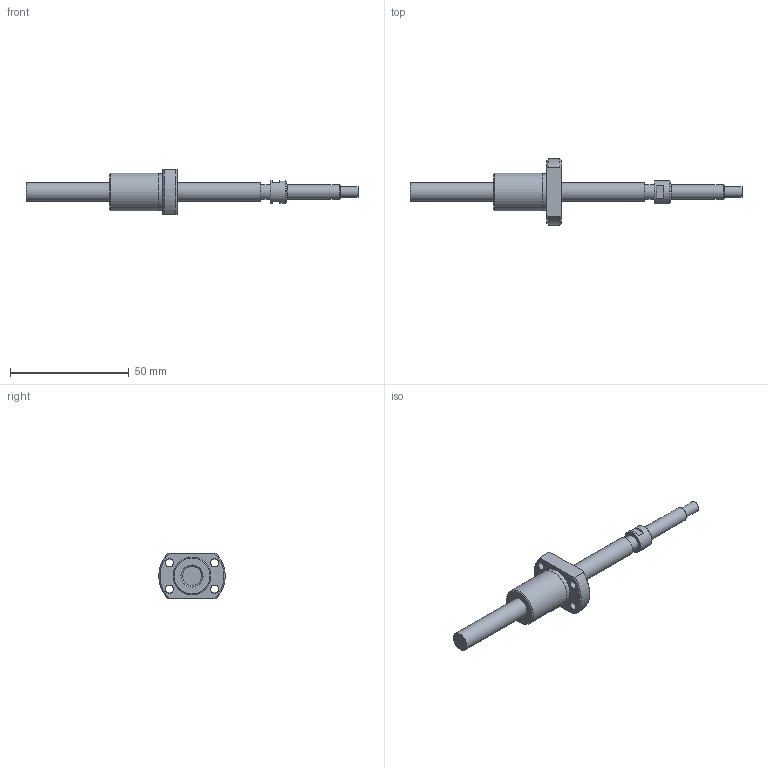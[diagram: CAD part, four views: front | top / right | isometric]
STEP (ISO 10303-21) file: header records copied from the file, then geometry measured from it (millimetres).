
FILE_DESCRIPTION(/* description */ ('STEP AP214'),/* implementation_level */ '2;1');
FILE_NAME(/* name */ 'NSGF0805Z-099R140C3-0-T-S-T-A-(35.25-S)',/* time_stamp */ '2026-08-24T20:12:13+02:00',/* author */ ('License CC BY-ND 4.0'),/* organization */ ('CADENAS'),/* preprocessor_version */ 'ST-DEVELOPER v20',/* originating_system */ 'PARTsolutions',/* authorisation */ ' ');
FILE_SCHEMA (('AUTOMOTIVE_DESIGN {1 0 10303 214 3 1 1}'));
Length unit declared in the file: millimetre
Products named in the file (3): NSGF0805Z-099R140C3-0-T-S-T-A-(35.25-S); NSG0805Z-99R14030.5_(T-S_T-A_2)-2; NSGF0805Z-1
Assembly tree (2 placements, depth 2):
  NSGF0805Z-099R140C3-0-T-S-T-A-(35.25-S)
    NSG0805Z-99R14030.5_(T-S_T-A_2)-2
    NSGF0805Z-1
Bounding box: 140 x 27.9 x 19 mm (x, y, z)
Volume: 11482 mm3; surface area: 6956.5 mm2
Topology: 2 solids, 2 shells, 43 faces, 89 edges, 59 vertices
Faces by surface type: plane 19, cylinder 15, cone 8, torus 1
Full cylindrical faces by diameter (mm): 3.4 x4, 4.5 x1, 6 x1, 6.3 x1, 8 x2, 9.5 x1, 15.5 x1, 16 x2
Entity records: 1135 total; most frequent: DIRECTION 194, CARTESIAN_POINT 192, ORIENTED_EDGE 134, AXIS2_PLACEMENT_3D 89, EDGE_LOOP 80, FACE_BOUND 80, EDGE_CURVE 67, VERTEX_POINT 55
